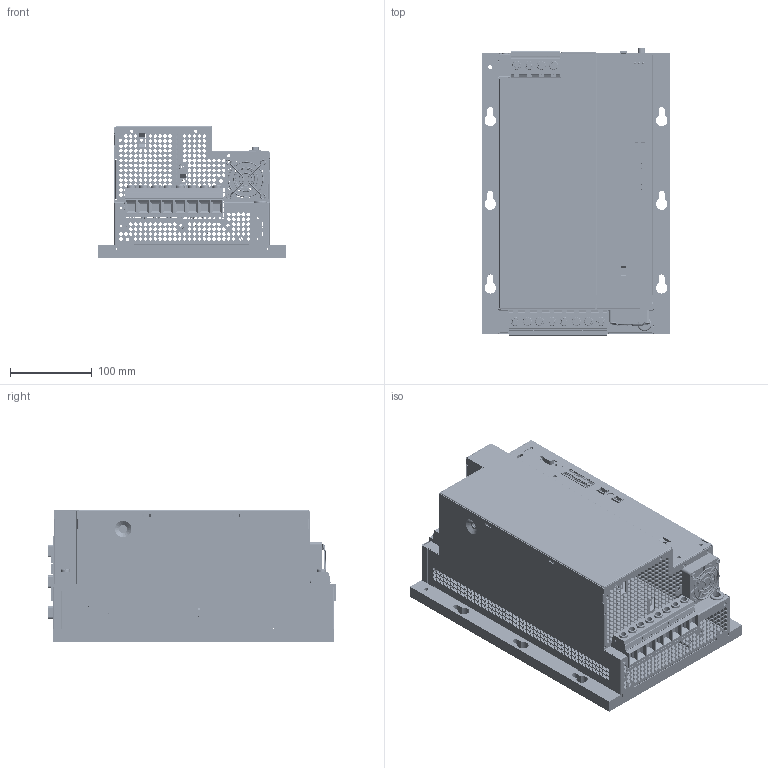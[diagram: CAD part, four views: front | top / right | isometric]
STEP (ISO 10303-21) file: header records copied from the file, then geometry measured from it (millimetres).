
FILE_DESCRIPTION (( 'STEP AP214' ), '1' );
FILE_NAME ('c-line BG6 cold plate.STEP', '2013-08-28T07:26:12', ( '' ), ( '' ), 'SwSTEP 2.0', 'SolidWorks 2012', '' );
FILE_SCHEMA (( 'AUTOMOTIVE_DESIGN' ));
Length unit declared in the file: millimetre
Products named in the file (17): Stecker 4pol; 183_-01376D; Stecker 2pol; Steuerprint CDE; 183_-01366-; 183_-01497-; 183_-01363G; 062-03986 Schutzgitter SC50-W1; 062-03761 Lüfter 50x50x15mm; 183_-01494-; 183_-01364-; Servo one BG5 Leistungsklemmen; 183-01465 Bezeichnungsstreifen; 183-01466 Bezeichnungsstreifen; MKDSP25-8-15; MKDSP25-4-15; c-line BG6 cold plate
Assembly tree (17 placements, depth 3):
  c-line BG6 cold plate
    Servo one BG5 Leistungsklemmen
      MKDSP25-4-15
      MKDSP25-8-15
      183-01466 Bezeichnungsstreifen
      183-01465 Bezeichnungsstreifen
    183_-01364-
    183_-01494-
    062-03761 Lüfter 50x50x15mm
    062-03986 Schutzgitter SC50-W1
    183_-01363G
    183_-01497-
    183_-01366-
    Steuerprint CDE
    Stecker 2pol  x2
    183_-01376D
    Stecker 4pol
Bounding box: 230 x 351.5 x 161 mm (x, y, z)
Volume: 1611969 mm3; surface area: 746262.3 mm2
Topology: 20 solids, 20 shells, 6278 faces, 17444 edges, 11484 vertices
Faces by surface type: plane 3037, bspline 2131, cylinder 999, torus 58, cone 50, sphere 3
Entity records: 256020 total; most frequent: CARTESIAN_POINT 92981, ORIENTED_EDGE 34718, DIRECTION 21125, EDGE_CURVE 17359, VERTEX_POINT 11430, EDGE_LOOP 8727, VECTOR 8539, LINE 8539
